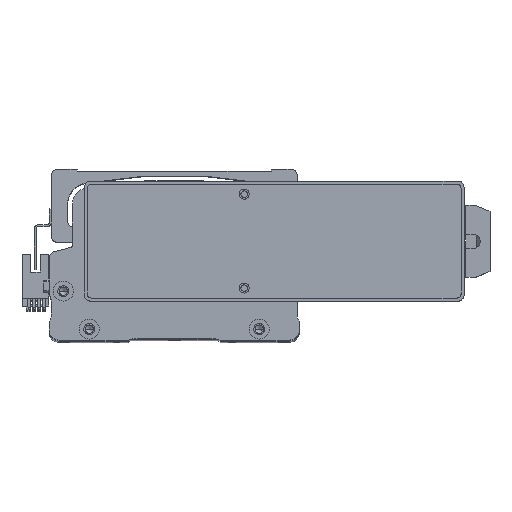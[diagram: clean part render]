
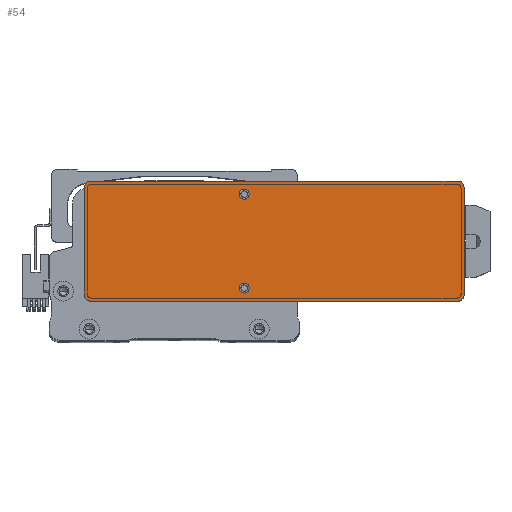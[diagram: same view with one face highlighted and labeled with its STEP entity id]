
A CAD part, top view. The second image highlights one B-rep face of the part: STEP entity #54.
In plain terms, the highlighted planar face has unit normal (0, 0, 1) as drawn and (0, 0, -1) by its records, which use the part's own axes.
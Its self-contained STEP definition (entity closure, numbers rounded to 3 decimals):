
#54 = ADVANCED_FACE ( 'NONE', ( #15347, #36894, #61150 ), #12586, .F. ) ;
#104 = CARTESIAN_POINT ( 'NONE',  ( -17.5, -23.5, 0. ) ) ;
#1222 = VERTEX_POINT ( 'NONE', #75703 ) ;
#1905 = VERTEX_POINT ( 'NONE', #70971 ) ;
#1994 = CARTESIAN_POINT ( 'NONE',  ( 95., 30., 0. ) ) ;
#2123 = CARTESIAN_POINT ( 'NONE',  ( -92., -27., 0. ) ) ;
#2379 = CARTESIAN_POINT ( 'NONE',  ( -15., 23.5, 0. ) ) ;
#2415 = CARTESIAN_POINT ( 'NONE',  ( -15., -23.5, 0. ) ) ;
#3032 = EDGE_CURVE ( 'NONE', #38696, #1222, #44703, .T. ) ;
#3093 = ORIENTED_EDGE ( 'NONE', *, *, #46355, .T. ) ;
#3727 = EDGE_CURVE ( 'NONE', #14741, #53152, #60433, .T. ) ;
#3909 = EDGE_CURVE ( 'NONE', #43949, #1905, #71551, .T. ) ;
#7485 = CARTESIAN_POINT ( 'NONE',  ( -15., 23.5, 0. ) ) ;
#8144 = DIRECTION ( 'NONE',  ( 1., 0., 0. ) ) ;
#8388 = DIRECTION ( 'NONE',  ( -1., 0., 0. ) ) ;
#8405 = EDGE_CURVE ( 'NONE', #69454, #64276, #19927, .T. ) ;
#8438 = DIRECTION ( 'NONE',  ( -1., 0., 0. ) ) ;
#9004 = DIRECTION ( 'NONE',  ( 1., 0., 0. ) ) ;
#9258 = DIRECTION ( 'NONE',  ( 0., 0., 1. ) ) ;
#9479 = CARTESIAN_POINT ( 'NONE',  ( 95., -30., 0. ) ) ;
#10016 = CARTESIAN_POINT ( 'NONE',  ( 0., 0., 0. ) ) ;
#12365 = DIRECTION ( 'NONE',  ( 0., 1., 0. ) ) ;
#12586 = PLANE ( 'NONE',  #61132 ) ;
#12882 = DIRECTION ( 'NONE',  ( 0., -1., 0. ) ) ;
#13141 = DIRECTION ( 'NONE',  ( 0., 0., -1. ) ) ;
#13478 = DIRECTION ( 'NONE',  ( -1., 0., 0. ) ) ;
#14741 = VERTEX_POINT ( 'NONE', #73789 ) ;
#15347 = FACE_BOUND ( 'NONE', #69990, .T. ) ;
#16561 = ORIENTED_EDGE ( 'NONE', *, *, #64094, .T. ) ;
#19927 = CIRCLE ( 'NONE', #76918, 2.5 ) ;
#21933 = CARTESIAN_POINT ( 'NONE',  ( -17.5, 23.5, 0. ) ) ;
#21968 = ORIENTED_EDGE ( 'NONE', *, *, #3909, .F. ) ;
#22435 = ORIENTED_EDGE ( 'NONE', *, *, #8405, .F. ) ;
#24271 = DIRECTION ( 'NONE',  ( 0., 0., -1. ) ) ;
#25848 = CARTESIAN_POINT ( 'NONE',  ( -92., 27., 0. ) ) ;
#26961 = VECTOR ( 'NONE', #73547, 1000. ) ;
#27209 = DIRECTION ( 'NONE',  ( 0., 0., -1. ) ) ;
#28742 = EDGE_CURVE ( 'NONE', #1905, #43949, #38703, .T. ) ;
#30493 = CARTESIAN_POINT ( 'NONE',  ( 95., -30., 0. ) ) ;
#31021 = CARTESIAN_POINT ( 'NONE',  ( -95., -30., 0. ) ) ;
#31844 = DIRECTION ( 'NONE',  ( 1., 0., 0. ) ) ;
#31978 = ORIENTED_EDGE ( 'NONE', *, *, #70955, .F. ) ;
#32735 = VERTEX_POINT ( 'NONE', #71146 ) ;
#36894 = FACE_OUTER_BOUND ( 'NONE', #42817, .T. ) ;
#36954 = CIRCLE ( 'NONE', #61185, 3. ) ;
#38696 = VERTEX_POINT ( 'NONE', #40196 ) ;
#38703 = CIRCLE ( 'NONE', #64756, 2.5 ) ;
#40196 = CARTESIAN_POINT ( 'NONE',  ( 92., 30., 0. ) ) ;
#41309 = ORIENTED_EDGE ( 'NONE', *, *, #28742, .F. ) ;
#41559 = CIRCLE ( 'NONE', #49570, 3. ) ;
#42176 = EDGE_CURVE ( 'NONE', #64276, #69454, #54358, .T. ) ;
#42817 = EDGE_LOOP ( 'NONE', ( #62392, #16561, #63761, #56072, #31978, #64281, #74417, #3093 ) ) ;
#43075 = EDGE_CURVE ( 'NONE', #32735, #57698, #50406, .T. ) ;
#43213 = VECTOR ( 'NONE', #57078, 1000. ) ;
#43257 = AXIS2_PLACEMENT_3D ( 'NONE', #25848, #67546, #31844 ) ;
#43371 = CIRCLE ( 'NONE', #43257, 3. ) ;
#43949 = VERTEX_POINT ( 'NONE', #104 ) ;
#43996 = DIRECTION ( 'NONE',  ( 0., 0., -1. ) ) ;
#44243 = DIRECTION ( 'NONE',  ( 0., 0., -1. ) ) ;
#44280 = DIRECTION ( 'NONE',  ( 0., 0., -1. ) ) ;
#44703 = LINE ( 'NONE', #1994, #26961 ) ;
#46355 = EDGE_CURVE ( 'NONE', #38696, #53152, #41559, .T. ) ;
#49031 = CARTESIAN_POINT ( 'NONE',  ( 92., 27., 0. ) ) ;
#49361 = DIRECTION ( 'NONE',  ( 0., 0., -1. ) ) ;
#49406 = EDGE_CURVE ( 'NONE', #32735, #65684, #74921, .T. ) ;
#49570 = AXIS2_PLACEMENT_3D ( 'NONE', #49031, #13141, #55013 ) ;
#50406 = CIRCLE ( 'NONE', #70768, 3. ) ;
#51002 = CARTESIAN_POINT ( 'NONE',  ( 95., 27., 0. ) ) ;
#51661 = VERTEX_POINT ( 'NONE', #55483 ) ;
#52303 = VECTOR ( 'NONE', #12882, 1000. ) ;
#53152 = VERTEX_POINT ( 'NONE', #51002 ) ;
#54177 = LINE ( 'NONE', #31021, #52303 ) ;
#54358 = CIRCLE ( 'NONE', #74171, 2.5 ) ;
#55013 = DIRECTION ( 'NONE',  ( 1., 0., 0. ) ) ;
#55483 = CARTESIAN_POINT ( 'NONE',  ( -95., 27., 0. ) ) ;
#56072 = ORIENTED_EDGE ( 'NONE', *, *, #43075, .T. ) ;
#57078 = DIRECTION ( 'NONE',  ( 1., 0., 0. ) ) ;
#57698 = VERTEX_POINT ( 'NONE', #70941 ) ;
#60042 = CARTESIAN_POINT ( 'NONE',  ( -15., -23.5, 0. ) ) ;
#60433 = LINE ( 'NONE', #30493, #74366 ) ;
#61132 = AXIS2_PLACEMENT_3D ( 'NONE', #10016, #9258, #9004 ) ;
#61150 = FACE_BOUND ( 'NONE', #74682, .T. ) ;
#61185 = AXIS2_PLACEMENT_3D ( 'NONE', #62942, #27209, #68934 ) ;
#62392 = ORIENTED_EDGE ( 'NONE', *, *, #3727, .F. ) ;
#62942 = CARTESIAN_POINT ( 'NONE',  ( 92., -27., 0. ) ) ;
#63761 = ORIENTED_EDGE ( 'NONE', *, *, #49406, .F. ) ;
#64094 = EDGE_CURVE ( 'NONE', #14741, #65684, #36954, .T. ) ;
#64276 = VERTEX_POINT ( 'NONE', #21933 ) ;
#64281 = ORIENTED_EDGE ( 'NONE', *, *, #64646, .T. ) ;
#64391 = CARTESIAN_POINT ( 'NONE',  ( 92., -30., 0. ) ) ;
#64646 = EDGE_CURVE ( 'NONE', #51661, #1222, #43371, .T. ) ;
#64756 = AXIS2_PLACEMENT_3D ( 'NONE', #60042, #24271, #65992 ) ;
#65684 = VERTEX_POINT ( 'NONE', #64391 ) ;
#65992 = DIRECTION ( 'NONE',  ( -1., 0., 0. ) ) ;
#67546 = DIRECTION ( 'NONE',  ( 0., 0., -1. ) ) ;
#68934 = DIRECTION ( 'NONE',  ( 1., 0., 0. ) ) ;
#69220 = ORIENTED_EDGE ( 'NONE', *, *, #42176, .F. ) ;
#69454 = VERTEX_POINT ( 'NONE', #75101 ) ;
#69990 = EDGE_LOOP ( 'NONE', ( #69220, #22435 ) ) ;
#70768 = AXIS2_PLACEMENT_3D ( 'NONE', #2123, #43996, #8144 ) ;
#70941 = CARTESIAN_POINT ( 'NONE',  ( -95., -27., 0. ) ) ;
#70955 = EDGE_CURVE ( 'NONE', #51661, #57698, #54177, .T. ) ;
#70971 = CARTESIAN_POINT ( 'NONE',  ( -12.5, -23.5, 0. ) ) ;
#71146 = CARTESIAN_POINT ( 'NONE',  ( -92., -30., 0. ) ) ;
#71551 = CIRCLE ( 'NONE', #76848, 2.5 ) ;
#73547 = DIRECTION ( 'NONE',  ( -1., 0., 0. ) ) ;
#73789 = CARTESIAN_POINT ( 'NONE',  ( 95., -27., 0. ) ) ;
#74171 = AXIS2_PLACEMENT_3D ( 'NONE', #7485, #49361, #13478 ) ;
#74366 = VECTOR ( 'NONE', #12365, 1000. ) ;
#74417 = ORIENTED_EDGE ( 'NONE', *, *, #3032, .F. ) ;
#74682 = EDGE_LOOP ( 'NONE', ( #21968, #41309 ) ) ;
#74921 = LINE ( 'NONE', #9479, #43213 ) ;
#75101 = CARTESIAN_POINT ( 'NONE',  ( -12.5, 23.5, 0. ) ) ;
#75703 = CARTESIAN_POINT ( 'NONE',  ( -92., 30., 0. ) ) ;
#76848 = AXIS2_PLACEMENT_3D ( 'NONE', #2415, #44280, #8438 ) ;
#76918 = AXIS2_PLACEMENT_3D ( 'NONE', #2379, #44243, #8388 ) ;
